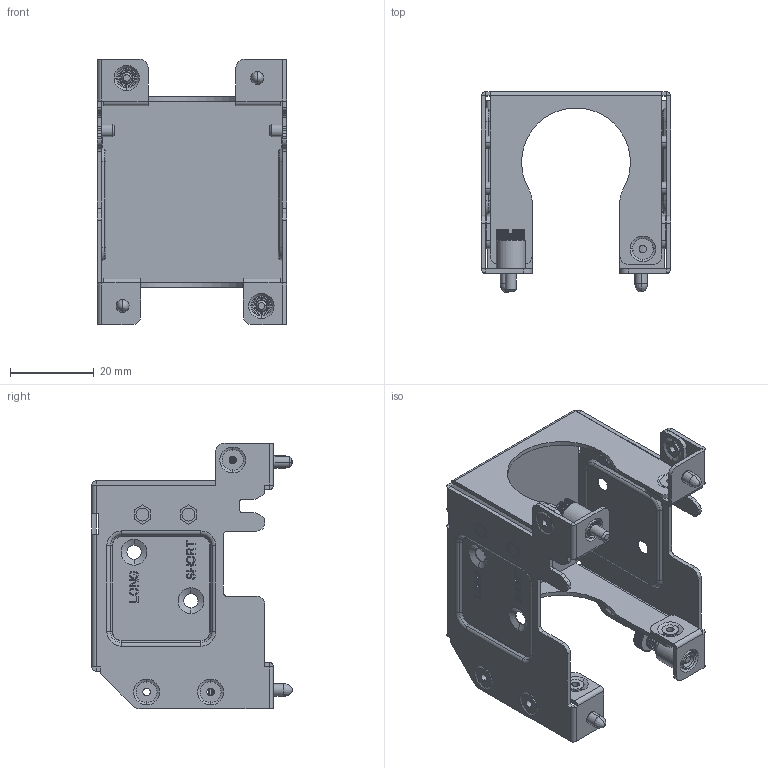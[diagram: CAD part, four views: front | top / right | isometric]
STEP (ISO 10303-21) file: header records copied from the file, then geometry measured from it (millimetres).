
FILE_DESCRIPTION (( 'STEP AP203' ), '1' );
FILE_NAME ('130330_SUS304_¶Û»¯_260701.STEP', '2026-07-01T08:49:11', ( '' ), ( '' ), 'SwSTEP 2.0', 'SolidWorks 2023', '' );
FILE_SCHEMA (( 'CONFIG_CONTROL_DESIGN' ));
Length unit declared in the file: millimetre
Products named in the file (7): CT_TES27558_CM_C_LOCK_ASM_1_1_3; CT_TES27558_CM_C_UNLOCK_ASM_1_1; T2M_FLOATING_COVER_QD06_DVT2__2; 130330_SUS304_钝化_260701; TRN3_FLOATING_COVER_PIN_DVT2__2; KSCT-3226-0B_1_1_1_1_2_1_1_1__1; TRN3_FLOATING_COVER_PIN_1_1_1_3
Assembly tree (19 placements, depth 2):
  130330_SUS304_钝化_260701
    T2M_FLOATING_COVER_QD06_DVT2__2
    TRN3_FLOATING_COVER_PIN_1_1_1_3  x4
    CT_TES27558_CM_C_LOCK_ASM_1_1_3
    CT_TES27558_CM_C_UNLOCK_ASM_1_1
    KSCT-3226-0B_1_1_1_1_2_1_1_1__1  x10
    TRN3_FLOATING_COVER_PIN_DVT2__2  x2
Bounding box: 45.2 x 47.9 x 63.5 mm (x, y, z)
Volume: 9832.1 mm3; surface area: 21612.6 mm2
Topology: 19 solids, 19 shells, 1930 faces, 5039 edges, 3199 vertices
Faces by surface type: plane 1299, cylinder 439, cone 148, torus 32, bspline 12
Entity records: 58999 total; most frequent: CARTESIAN_POINT 13047, ORIENTED_EDGE 9418, DIRECTION 9272, EDGE_CURVE 4709, VECTOR 3584, LINE 3584, VERTEX_POINT 2997, AXIS2_PLACEMENT_3D 2844
